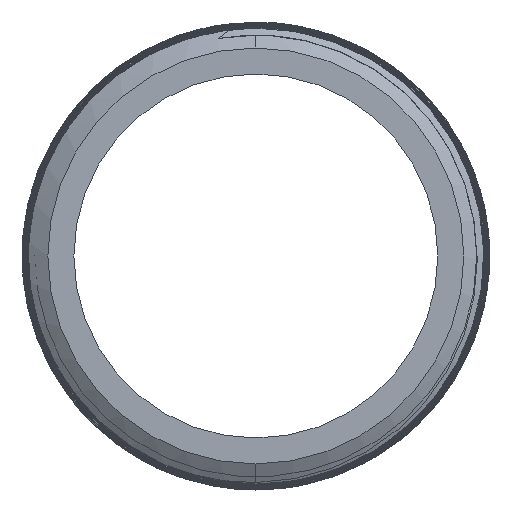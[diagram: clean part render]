
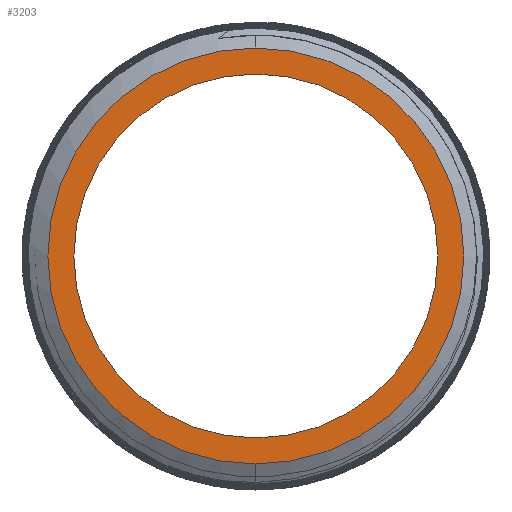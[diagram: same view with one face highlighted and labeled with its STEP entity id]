
A CAD part, left-side view. The second image highlights one B-rep face of the part: STEP entity #3203.
In plain terms, the highlighted planar face has unit normal (-1, 0, 0).
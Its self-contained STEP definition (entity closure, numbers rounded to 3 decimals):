
#943 = VERTEX_POINT ( 'NONE', #2777 ) ;
#1330 = CARTESIAN_POINT ( 'NONE',  ( -45., 5.25, 0. ) ) ;
#1383 = DIRECTION ( 'NONE',  ( 0., 0., -1. ) ) ;
#1575 = EDGE_CURVE ( 'NONE', #2126, #943, #4929, .T. ) ;
#1629 = ORIENTED_EDGE ( 'NONE', *, *, #5019, .T. ) ;
#1904 = CARTESIAN_POINT ( 'NONE',  ( -45., 0., 0. ) ) ;
#2126 = VERTEX_POINT ( 'NONE', #8476 ) ;
#2223 = CIRCLE ( 'NONE', #7858, 6. ) ;
#2354 = DIRECTION ( 'NONE',  ( -1., 0., 0. ) ) ;
#2681 = EDGE_LOOP ( 'NONE', ( #6000, #1629 ) ) ;
#2777 = CARTESIAN_POINT ( 'NONE',  ( -45., 0., -5.25 ) ) ;
#2852 = ORIENTED_EDGE ( 'NONE', *, *, #6971, .F. ) ;
#2964 = DIRECTION ( 'NONE',  ( -1., 0., 0. ) ) ;
#3111 = CIRCLE ( 'NONE', #4528, 6. ) ;
#3133 = FACE_OUTER_BOUND ( 'NONE', #2681, .T. ) ;
#3203 = ADVANCED_FACE ( 'NONE', ( #9848, #3133 ), #8857, .F. ) ;
#3538 = CARTESIAN_POINT ( 'NONE',  ( -45., 0., 6. ) ) ;
#3872 = AXIS2_PLACEMENT_3D ( 'NONE', #6384, #2354, #5557 ) ;
#4453 = DIRECTION ( 'NONE',  ( -1., 0., 0. ) ) ;
#4528 = AXIS2_PLACEMENT_3D ( 'NONE', #1904, #4453, #6155 ) ;
#4929 = CIRCLE ( 'NONE', #3872, 5.25 ) ;
#5019 = EDGE_CURVE ( 'NONE', #5870, #5364, #2223, .T. ) ;
#5069 = EDGE_CURVE ( 'NONE', #5364, #5870, #3111, .T. ) ;
#5364 = VERTEX_POINT ( 'NONE', #6210 ) ;
#5557 = DIRECTION ( 'NONE',  ( 0., 0., 1. ) ) ;
#5559 = DIRECTION ( 'NONE',  ( 1., 0., 0. ) ) ;
#5870 = VERTEX_POINT ( 'NONE', #3538 ) ;
#6000 = ORIENTED_EDGE ( 'NONE', *, *, #5069, .T. ) ;
#6155 = DIRECTION ( 'NONE',  ( 0., 0., 1. ) ) ;
#6210 = CARTESIAN_POINT ( 'NONE',  ( -45., 0., -6. ) ) ;
#6383 = DIRECTION ( 'NONE',  ( 0., 0., 1. ) ) ;
#6384 = CARTESIAN_POINT ( 'NONE',  ( -45., 0., 0. ) ) ;
#6645 = CARTESIAN_POINT ( 'NONE',  ( -45., 0., 0. ) ) ;
#6971 = EDGE_CURVE ( 'NONE', #943, #2126, #9660, .T. ) ;
#7312 = CARTESIAN_POINT ( 'NONE',  ( -45., 0., 0. ) ) ;
#7364 = DIRECTION ( 'NONE',  ( 0., 0., 1. ) ) ;
#7858 = AXIS2_PLACEMENT_3D ( 'NONE', #7312, #2964, #6383 ) ;
#8340 = AXIS2_PLACEMENT_3D ( 'NONE', #1330, #5559, #1383 ) ;
#8476 = CARTESIAN_POINT ( 'NONE',  ( -45., 0., 5.25 ) ) ;
#8857 = PLANE ( 'NONE',  #8340 ) ;
#9108 = EDGE_LOOP ( 'NONE', ( #10008, #2852 ) ) ;
#9135 = AXIS2_PLACEMENT_3D ( 'NONE', #6645, #10822, #7364 ) ;
#9660 = CIRCLE ( 'NONE', #9135, 5.25 ) ;
#9848 = FACE_BOUND ( 'NONE', #9108, .T. ) ;
#10008 = ORIENTED_EDGE ( 'NONE', *, *, #1575, .F. ) ;
#10822 = DIRECTION ( 'NONE',  ( -1., 0., 0. ) ) ;
